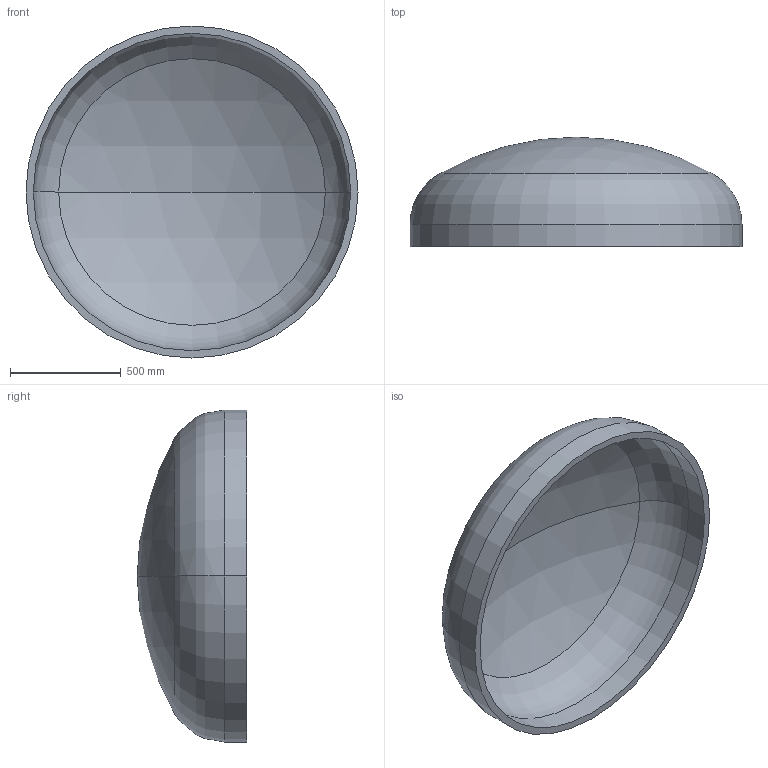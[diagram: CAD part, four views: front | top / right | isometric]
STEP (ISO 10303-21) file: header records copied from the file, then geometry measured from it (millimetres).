
FILE_DESCRIPTION (( 'STEP AP203' ), '1' );
FILE_NAME ('DIN 28013 Korbbogenform_-_Boden DIN 28013 - 1500 x 100 - I - s=33.step', '2016-07-01T10:43:17', ( '' ), ( '' ), 'SwSTEP 2.0', 'SolidWorks 2013', '' );
FILE_SCHEMA (( 'CONFIG_CONTROL_DESIGN' ));
Length unit declared in the file: millimetre
Products named in the file (1): DIN 28013 Korbbogenform_-_Boden DIN 28013 - 1500 x 100 - I - s=33
Bounding box: 1500 x 494.11 x 1500 mm (x, y, z)
Volume: 93605295.8 mm3; surface area: 5827414.9 mm2
Topology: 1 solids, 1 shells, 13 faces, 24 edges, 14 vertices
Faces by surface type: torus 4, cylinder 4, sphere 4, plane 1
Entity records: 407 total; most frequent: DIRECTION 72, CARTESIAN_POINT 52, ORIENTED_EDGE 48, AXIS2_PLACEMENT_3D 34, EDGE_CURVE 24, CIRCLE 20, EDGE_LOOP 14, VERTEX_POINT 14
